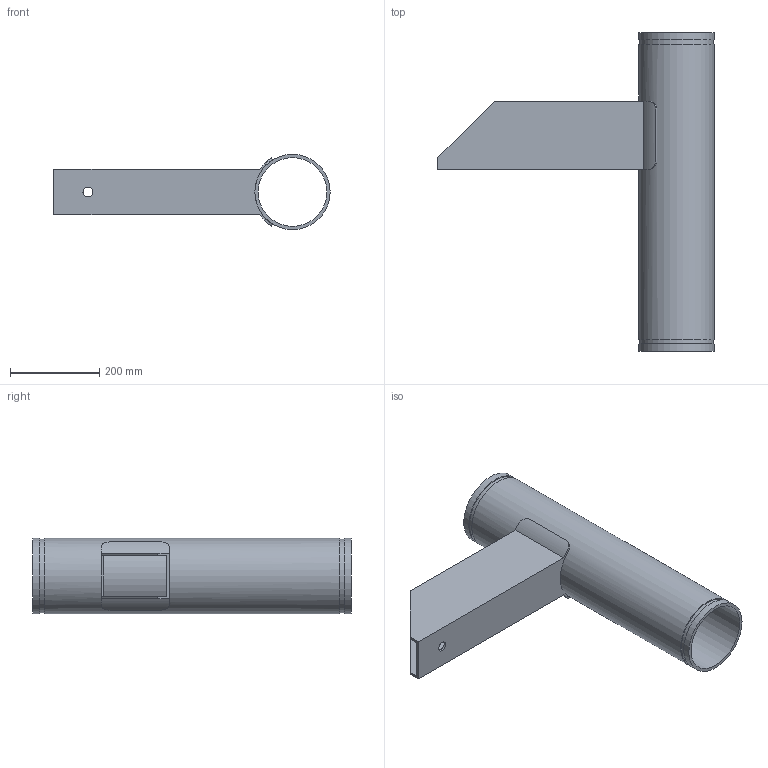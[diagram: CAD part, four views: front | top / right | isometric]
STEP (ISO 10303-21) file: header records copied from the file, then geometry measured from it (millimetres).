
FILE_DESCRIPTION(/* description */ ('VIC SS FLOOR MOUNTED RISER ANCHOR No A40S'),/* implementation_level */ '2;1');
FILE_NAME(/* name */ 'C:\Files for Export\A40 & A40S-STEP-SWX\STEP\Victaulic_SS-OGS_Riser Anchor_No A40S (OGS)\Victaulic_SS-OGS_Riser Anchor_No A40S (OGS)_6 (150).stp',/* time_stamp */ '2024-06-07T07:37:04+02:00',/* author */ ('kkamble'),/* organization */ ('Victaulic'),/* preprocessor_version */ 'ST-DEVELOPER v18.1',/* originating_system */ 'Autodesk Inventor 2020',/* authorisation */ '');
FILE_SCHEMA (('AUTOMOTIVE_DESIGN { 1 0 10303 214 3 1 1 }'));
Length unit declared in the file: inch
Products named in the file (1): A40S-06.0
Bounding box: 617.54 x 711.2 x 168.28 mm (x, y, z)
Volume: 3723766.8 mm3; surface area: 1123483.4 mm2
Topology: 1 solids, 1 shells, 34 faces, 94 edges, 66 vertices
Faces by surface type: plane 20, cylinder 14
Full cylindrical faces by diameter (mm): 22.225 x1, 153.67 x1, 163.957 x2, 168.275 x3
Entity records: 1319 total; most frequent: CARTESIAN_POINT 331, DIRECTION 192, ORIENTED_EDGE 188, EDGE_CURVE 94, AXIS2_PLACEMENT_3D 71, VERTEX_POINT 66, LINE 50, VECTOR 50
